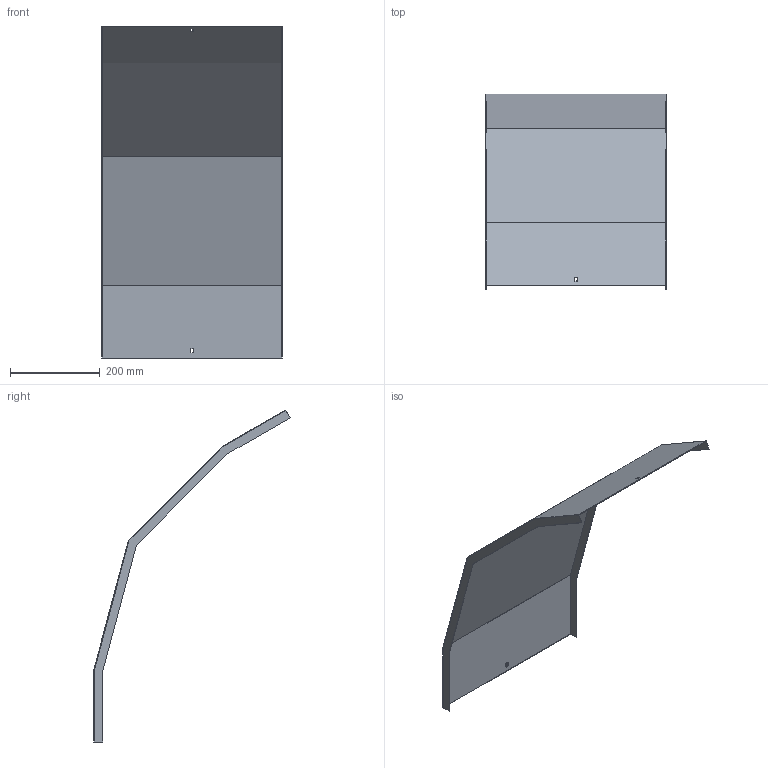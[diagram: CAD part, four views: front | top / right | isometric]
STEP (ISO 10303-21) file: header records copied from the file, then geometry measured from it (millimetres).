
FILE_DESCRIPTION (( 'STEP AP214' ), '1' );
FILE_NAME ('41N5C400.step', '2025-02-21T10:37:36', ( '' ), ( '' ), 'SwSTEP 2.0', 'SolidWorks 2023', '' );
FILE_SCHEMA (( 'AUTOMOTIVE_DESIGN' ));
Length unit declared in the file: millimetre
Products named in the file (1): 41N5C400
Bounding box: 403 x 437.72 x 740.83 mm (x, y, z)
Volume: 605414 mm3; surface area: 811328 mm2
Topology: 1 solids, 1 shells, 30 faces, 84 edges, 56 vertices
Faces by surface type: plane 30
Entity records: 979 total; most frequent: CARTESIAN_POINT 171, ORIENTED_EDGE 168, DIRECTION 146, VECTOR 84, LINE 84, EDGE_CURVE 84, VERTEX_POINT 56, EDGE_LOOP 34
